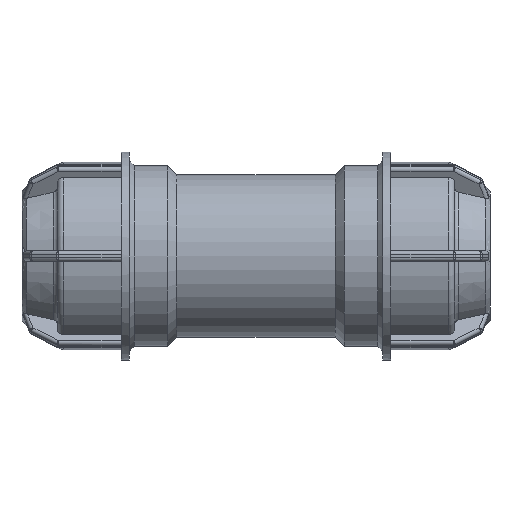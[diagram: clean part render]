
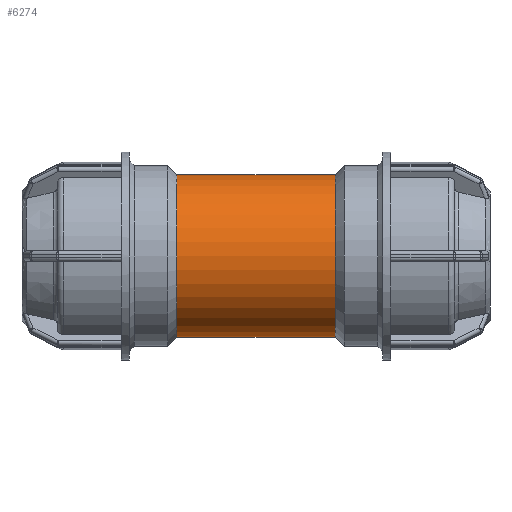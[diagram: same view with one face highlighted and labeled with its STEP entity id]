
A CAD part, front view. The second image highlights one B-rep face of the part: STEP entity #6274.
In plain terms, the highlighted cylindrical face has radius 36 mm (diameter 72 mm), a full revolution.
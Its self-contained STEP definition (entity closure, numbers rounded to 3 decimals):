
#1030=CIRCLE('',#6293,36.);
#1197=CIRCLE('',#6659,36.);
#1418=FACE_BOUND('',#2451,.T.);
#1419=FACE_BOUND('',#2452,.T.);
#1430=B_SPLINE_CURVE_WITH_KNOTS('',3,(#8922,#8923,#8924,#8925,#8926,#8927,
#8928,#8929,#8930,#8931,#8932,#8933,#8934,#8935,#8936,#8937,#8938,#8939,
#8940,#8941,#8942,#8943,#8944,#8945,#8946,#8947,#8948,#8949,#8950,#8951,
#8952,#8953,#8954,#8955,#8956,#8957,#8958,#8959,#8960,#8961,#8962,#8963,
#8964,#8965,#8966,#8967,#8968,#8969,#8970,#8971,#8972,#8973,#8974,#8975,
#8976,#8977,#8978,#8979,#8980,#8981,#8982,#8983,#8984,#8985,#8986,#8987),
 .UNSPECIFIED.,.T.,.F.,(4,2,2,2,2,2,2,2,2,2,2,2,2,2,2,2,2,2,2,2,2,2,2,2,
2,2,2,2,2,2,2,2,4),(0.,0.44,0.881,1.321,
1.762,2.198,2.635,3.072,3.509,
3.946,4.383,4.82,5.257,5.697,
6.138,6.578,7.018,7.459,7.899,
8.34,8.78,9.217,9.654,10.091,
10.528,10.964,11.401,11.838,12.275,
12.716,13.156,13.596,14.037),
 .UNSPECIFIED.);
#2012=FACE_OUTER_BOUND('',#2450,.T.);
#2450=EDGE_LOOP('',(#5728));
#2451=EDGE_LOOP('',(#5729));
#2452=EDGE_LOOP('',(#5730));
#2477=VERTEX_POINT('',#8921);
#2479=VERTEX_POINT('',#8991);
#2742=VERTEX_POINT('',#10476);
#3017=EDGE_CURVE('',#2477,#2477,#1430,.T.);
#3019=EDGE_CURVE('',#2479,#2479,#1030,.T.);
#3468=EDGE_CURVE('',#2742,#2742,#1197,.T.);
#5728=ORIENTED_EDGE('',*,*,#3019,.T.);
#5729=ORIENTED_EDGE('',*,*,#3017,.T.);
#5730=ORIENTED_EDGE('',*,*,#3468,.F.);
#5869=CYLINDRICAL_SURFACE('',#7025,36.);
#6274=ADVANCED_FACE('',(#2012,#1418,#1419),#5869,.T.);
#6293=AXIS2_PLACEMENT_3D('',#8992,#7055,#7056);
#6659=AXIS2_PLACEMENT_3D('',#10477,#7967,#7968);
#7025=AXIS2_PLACEMENT_3D('',#11972,#8879,#8880);
#7055=DIRECTION('center_axis',(1.,0.,0.));
#7056=DIRECTION('ref_axis',(0.,0.,-1.));
#7967=DIRECTION('center_axis',(1.,0.,0.));
#7968=DIRECTION('ref_axis',(0.,0.,-1.));
#8879=DIRECTION('center_axis',(1.,0.,0.));
#8880=DIRECTION('ref_axis',(0.,1.,0.));
#8921=CARTESIAN_POINT('',(0.,28.102,-22.5));
#8922=CARTESIAN_POINT('Ctrl Pts',(0.,28.102,-22.5));
#8923=CARTESIAN_POINT('Ctrl Pts',(1.468,28.102,-22.5));
#8924=CARTESIAN_POINT('Ctrl Pts',(2.964,28.221,-22.354));
#8925=CARTESIAN_POINT('Ctrl Pts',(5.906,28.68,-21.763));
#8926=CARTESIAN_POINT('Ctrl Pts',(7.352,29.019,-21.317));
#8927=CARTESIAN_POINT('Ctrl Pts',(10.102,29.834,-20.16));
#8928=CARTESIAN_POINT('Ctrl Pts',(11.41,30.311,-19.447));
#8929=CARTESIAN_POINT('Ctrl Pts',(13.824,31.299,-17.812));
#8930=CARTESIAN_POINT('Ctrl Pts',(14.93,31.811,-16.89));
#8931=CARTESIAN_POINT('Ctrl Pts',(16.882,32.773,-14.937));
#8932=CARTESIAN_POINT('Ctrl Pts',(17.803,33.26,-13.836));
#8933=CARTESIAN_POINT('Ctrl Pts',(19.441,34.165,-11.421));
#8934=CARTESIAN_POINT('Ctrl Pts',(20.157,34.581,-10.108));
#8935=CARTESIAN_POINT('Ctrl Pts',(21.32,35.271,-7.346));
#8936=CARTESIAN_POINT('Ctrl Pts',(21.766,35.545,-5.895));
#8937=CARTESIAN_POINT('Ctrl Pts',(22.356,35.91,-2.95));
#8938=CARTESIAN_POINT('Ctrl Pts',(22.5,36.,-1.456));
#8939=CARTESIAN_POINT('Ctrl Pts',(22.5,36.,1.456));
#8940=CARTESIAN_POINT('Ctrl Pts',(22.356,35.91,2.95));
#8941=CARTESIAN_POINT('Ctrl Pts',(21.766,35.545,5.895));
#8942=CARTESIAN_POINT('Ctrl Pts',(21.32,35.271,7.346));
#8943=CARTESIAN_POINT('Ctrl Pts',(20.157,34.581,10.108));
#8944=CARTESIAN_POINT('Ctrl Pts',(19.441,34.165,11.421));
#8945=CARTESIAN_POINT('Ctrl Pts',(17.803,33.26,13.836));
#8946=CARTESIAN_POINT('Ctrl Pts',(16.882,32.773,14.937));
#8947=CARTESIAN_POINT('Ctrl Pts',(14.93,31.811,16.89));
#8948=CARTESIAN_POINT('Ctrl Pts',(13.824,31.299,17.812));
#8949=CARTESIAN_POINT('Ctrl Pts',(11.41,30.311,19.447));
#8950=CARTESIAN_POINT('Ctrl Pts',(10.102,29.834,20.16));
#8951=CARTESIAN_POINT('Ctrl Pts',(7.352,29.019,21.317));
#8952=CARTESIAN_POINT('Ctrl Pts',(5.906,28.68,21.763));
#8953=CARTESIAN_POINT('Ctrl Pts',(2.964,28.221,22.354));
#8954=CARTESIAN_POINT('Ctrl Pts',(1.468,28.102,22.5));
#8955=CARTESIAN_POINT('Ctrl Pts',(-1.468,28.102,22.5));
#8956=CARTESIAN_POINT('Ctrl Pts',(-2.964,28.221,22.354));
#8957=CARTESIAN_POINT('Ctrl Pts',(-5.906,28.68,21.763));
#8958=CARTESIAN_POINT('Ctrl Pts',(-7.352,29.019,21.317));
#8959=CARTESIAN_POINT('Ctrl Pts',(-10.102,29.834,20.16));
#8960=CARTESIAN_POINT('Ctrl Pts',(-11.41,30.311,19.447));
#8961=CARTESIAN_POINT('Ctrl Pts',(-13.824,31.299,17.812));
#8962=CARTESIAN_POINT('Ctrl Pts',(-14.93,31.811,16.89));
#8963=CARTESIAN_POINT('Ctrl Pts',(-16.882,32.773,14.937));
#8964=CARTESIAN_POINT('Ctrl Pts',(-17.803,33.26,13.836));
#8965=CARTESIAN_POINT('Ctrl Pts',(-19.441,34.165,11.421));
#8966=CARTESIAN_POINT('Ctrl Pts',(-20.157,34.581,10.108));
#8967=CARTESIAN_POINT('Ctrl Pts',(-21.32,35.271,7.346));
#8968=CARTESIAN_POINT('Ctrl Pts',(-21.766,35.545,5.895));
#8969=CARTESIAN_POINT('Ctrl Pts',(-22.356,35.91,2.95));
#8970=CARTESIAN_POINT('Ctrl Pts',(-22.5,36.,1.456));
#8971=CARTESIAN_POINT('Ctrl Pts',(-22.5,36.,-1.456));
#8972=CARTESIAN_POINT('Ctrl Pts',(-22.356,35.91,-2.95));
#8973=CARTESIAN_POINT('Ctrl Pts',(-21.766,35.545,-5.895));
#8974=CARTESIAN_POINT('Ctrl Pts',(-21.32,35.271,-7.346));
#8975=CARTESIAN_POINT('Ctrl Pts',(-20.157,34.581,-10.108));
#8976=CARTESIAN_POINT('Ctrl Pts',(-19.441,34.165,-11.421));
#8977=CARTESIAN_POINT('Ctrl Pts',(-17.803,33.26,-13.836));
#8978=CARTESIAN_POINT('Ctrl Pts',(-16.882,32.773,-14.937));
#8979=CARTESIAN_POINT('Ctrl Pts',(-14.93,31.811,-16.89));
#8980=CARTESIAN_POINT('Ctrl Pts',(-13.824,31.299,-17.812));
#8981=CARTESIAN_POINT('Ctrl Pts',(-11.41,30.311,-19.447));
#8982=CARTESIAN_POINT('Ctrl Pts',(-10.102,29.834,-20.16));
#8983=CARTESIAN_POINT('Ctrl Pts',(-7.352,29.019,-21.317));
#8984=CARTESIAN_POINT('Ctrl Pts',(-5.906,28.68,-21.763));
#8985=CARTESIAN_POINT('Ctrl Pts',(-2.964,28.221,-22.354));
#8986=CARTESIAN_POINT('Ctrl Pts',(-1.468,28.102,-22.5));
#8987=CARTESIAN_POINT('Ctrl Pts',(0.,28.102,-22.5));
#8991=CARTESIAN_POINT('',(-35.1,36.,0.));
#8992=CARTESIAN_POINT('Origin',(-35.1,0.,0.));
#10476=CARTESIAN_POINT('',(35.1,36.,0.));
#10477=CARTESIAN_POINT('Origin',(35.1,0.,0.));
#11972=CARTESIAN_POINT('Origin',(17.55,0.,0.));
